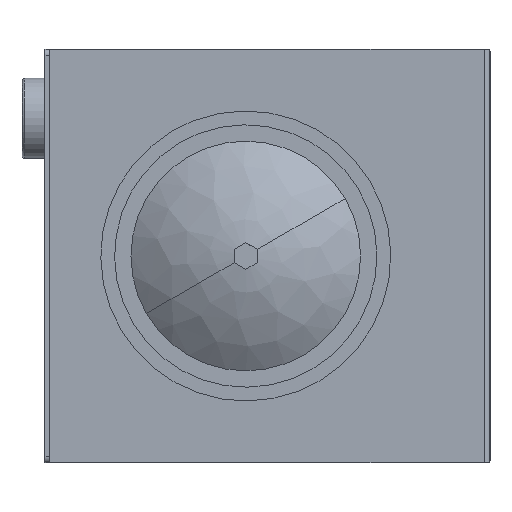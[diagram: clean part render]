
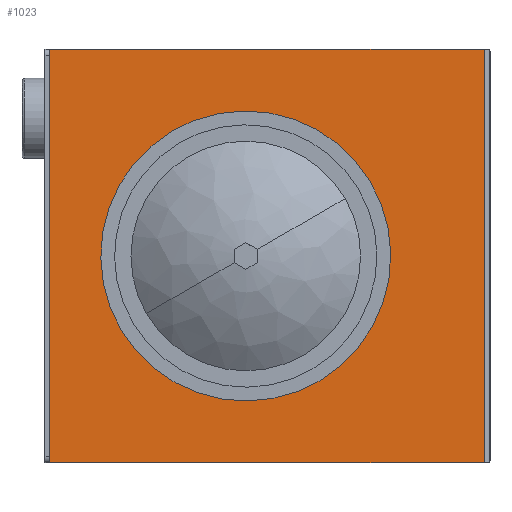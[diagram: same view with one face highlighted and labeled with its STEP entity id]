
A CAD part, left-side view. The second image highlights one B-rep face of the part: STEP entity #1023.
In plain terms, the highlighted planar face has unit normal (-1, 0, 0) as drawn and (1, 0, 0) by its records, which use the part's own axes.
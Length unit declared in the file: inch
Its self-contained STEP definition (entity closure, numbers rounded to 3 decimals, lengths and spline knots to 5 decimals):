
#14 = DIRECTION ( 'NONE',  ( 0., 0., 1. ) ) ;
#71 = VECTOR ( 'NONE', #4289, 39.37008 ) ;
#256 = DIRECTION ( 'NONE',  ( 1., 0., 0. ) ) ;
#753 = CARTESIAN_POINT ( 'NONE',  ( 0., 1.0395, 0. ) ) ;
#792 = ORIENTED_EDGE ( 'NONE', *, *, #2748, .F. ) ;
#819 = VECTOR ( 'NONE', #14, 39.37008 ) ;
#870 = ORIENTED_EDGE ( 'NONE', *, *, #6283, .T. ) ;
#891 = DIRECTION ( 'NONE',  ( 0., 0., 1. ) ) ;
#909 = CARTESIAN_POINT ( 'NONE',  ( 0., 1.0395, 5. ) ) ;
#943 = LINE ( 'NONE', #1776, #819 ) ;
#979 = AXIS2_PLACEMENT_3D ( 'NONE', #5162, #5256, #891 ) ;
#1004 = ORIENTED_EDGE ( 'NONE', *, *, #1325, .T. ) ;
#1017 = FACE_OUTER_BOUND ( 'NONE', #5226, .T. ) ;
#1023 = ADVANCED_FACE ( 'NONE', ( #7854, #1017 ), #7940, .F. ) ;
#1040 = EDGE_CURVE ( 'NONE', #2124, #6603, #5794, .T. ) ;
#1172 = ORIENTED_EDGE ( 'NONE', *, *, #3080, .F. ) ;
#1221 = DIRECTION ( 'NONE',  ( 1., 0., 0. ) ) ;
#1325 = EDGE_CURVE ( 'NONE', #1949, #2124, #943, .T. ) ;
#1356 = VERTEX_POINT ( 'NONE', #909 ) ;
#1415 = CARTESIAN_POINT ( 'NONE',  ( 0., -9.345, 9. ) ) ;
#1624 = CARTESIAN_POINT ( 'NONE',  ( 0., 9.595, -9. ) ) ;
#1666 = DIRECTION ( 'NONE',  ( 0., -1., 0. ) ) ;
#1776 = CARTESIAN_POINT ( 'NONE',  ( 0., 9.595, 9. ) ) ;
#1949 = VERTEX_POINT ( 'NONE', #1624 ) ;
#2124 = VERTEX_POINT ( 'NONE', #2578 ) ;
#2354 = CARTESIAN_POINT ( 'NONE',  ( 0., -9.345, -9. ) ) ;
#2359 = EDGE_CURVE ( 'NONE', #6603, #5442, #6915, .T. ) ;
#2543 = CARTESIAN_POINT ( 'NONE',  ( 0., -9.345, 9. ) ) ;
#2578 = CARTESIAN_POINT ( 'NONE',  ( 0., 9.595, 9. ) ) ;
#2748 = EDGE_CURVE ( 'NONE', #6804, #1356, #5067, .T. ) ;
#3080 = EDGE_CURVE ( 'NONE', #1356, #6804, #8357, .T. ) ;
#3281 = AXIS2_PLACEMENT_3D ( 'NONE', #4354, #1221, #7038 ) ;
#3418 = VECTOR ( 'NONE', #7173, 39.37008 ) ;
#4289 = DIRECTION ( 'NONE',  ( 0., 0., -1. ) ) ;
#4354 = CARTESIAN_POINT ( 'NONE',  ( 0., 1.0395, 0. ) ) ;
#4358 = CARTESIAN_POINT ( 'NONE',  ( 0., -9.595, 9. ) ) ;
#4435 = EDGE_LOOP ( 'NONE', ( #792, #1172 ) ) ;
#4881 = DIRECTION ( 'NONE',  ( 0., 0., -1. ) ) ;
#5067 = CIRCLE ( 'NONE', #6589, 5. ) ;
#5162 = CARTESIAN_POINT ( 'NONE',  ( 0., 0., 0. ) ) ;
#5226 = EDGE_LOOP ( 'NONE', ( #6491, #870, #1004, #7911 ) ) ;
#5256 = DIRECTION ( 'NONE',  ( -1., 0., 0. ) ) ;
#5278 = LINE ( 'NONE', #7597, #3418 ) ;
#5442 = VERTEX_POINT ( 'NONE', #2354 ) ;
#5585 = VECTOR ( 'NONE', #1666, 39.37008 ) ;
#5794 = LINE ( 'NONE', #4358, #5585 ) ;
#6283 = EDGE_CURVE ( 'NONE', #5442, #1949, #5278, .T. ) ;
#6491 = ORIENTED_EDGE ( 'NONE', *, *, #2359, .T. ) ;
#6589 = AXIS2_PLACEMENT_3D ( 'NONE', #753, #256, #4881 ) ;
#6603 = VERTEX_POINT ( 'NONE', #1415 ) ;
#6804 = VERTEX_POINT ( 'NONE', #7529 ) ;
#6915 = LINE ( 'NONE', #2543, #71 ) ;
#7038 = DIRECTION ( 'NONE',  ( 0., 0., -1. ) ) ;
#7173 = DIRECTION ( 'NONE',  ( 0., 1., 0. ) ) ;
#7529 = CARTESIAN_POINT ( 'NONE',  ( 0., 1.0395, -5. ) ) ;
#7597 = CARTESIAN_POINT ( 'NONE',  ( 0., -9.595, -9. ) ) ;
#7854 = FACE_BOUND ( 'NONE', #4435, .T. ) ;
#7911 = ORIENTED_EDGE ( 'NONE', *, *, #1040, .T. ) ;
#7940 = PLANE ( 'NONE',  #979 ) ;
#8357 = CIRCLE ( 'NONE', #3281, 5. ) ;
